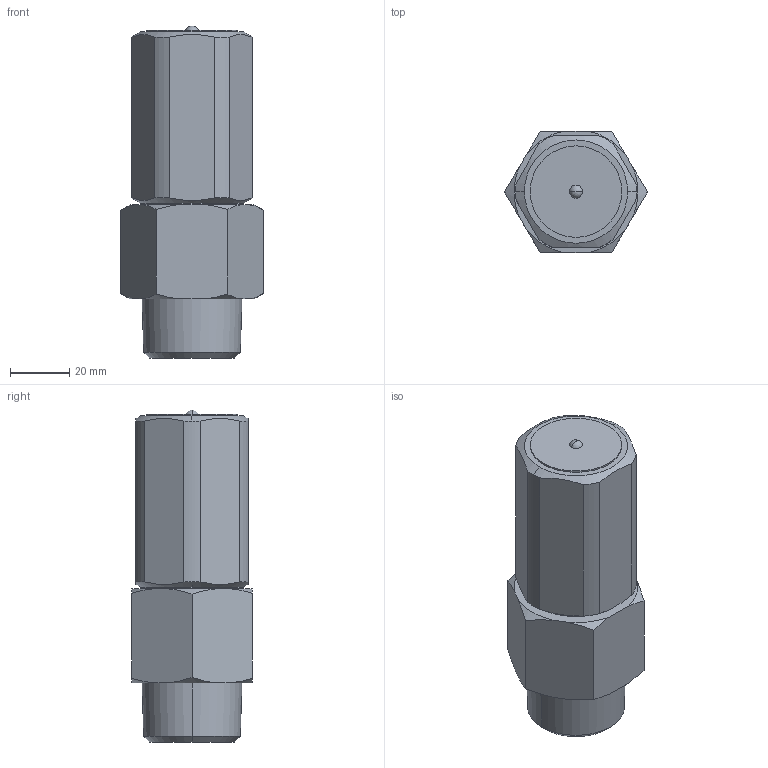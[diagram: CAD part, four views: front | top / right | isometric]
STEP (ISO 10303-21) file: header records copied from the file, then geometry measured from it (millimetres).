
FILE_DESCRIPTION( (''), '2;1');
FILE_NAME ('PC1027.10420.VB-7　25A_7550.stp','2025-07-29T11:55:06',(''),(''),'spGate 20.6.3 (****-****-****-****)','','');
FILE_SCHEMA (('AUTOMOTIVE_DESIGN'));
Length unit declared in the file: millimetre
Bounding box: 48.5 x 41 x 112.5 mm (x, y, z)
Volume: 136494.5 mm3; surface area: 17182 mm2
Topology: 1 solids, 1 shells, 50 faces, 130 edges, 85 vertices
Faces by surface type: bspline 22, plane 18, cylinder 8, sphere 2
Entity records: 2793 total; most frequent: CARTESIAN_POINT 705, ORIENTED_EDGE 256, DIRECTION 182, COLOUR_RGB 179, PRESENTATION_STYLE_ASSIGNMENT 179, STYLED_ITEM 179, EDGE_CURVE 128, DRAUGHTING_PRE_DEFINED_CURVE_FONT 128
